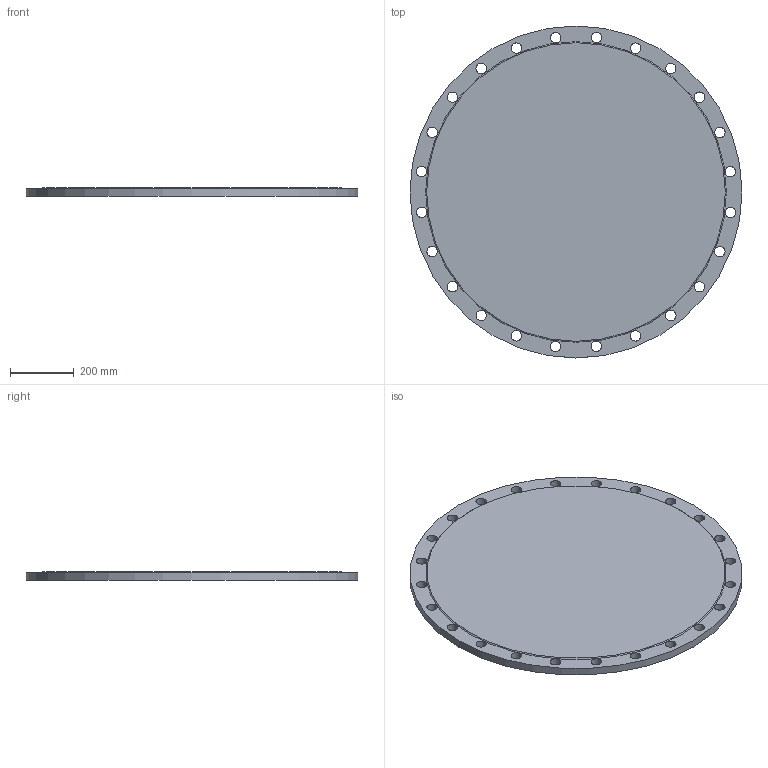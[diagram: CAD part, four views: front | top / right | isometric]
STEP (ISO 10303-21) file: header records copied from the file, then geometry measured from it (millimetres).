
FILE_DESCRIPTION(/* description */ (''),/* implementation_level */ '2;1');
FILE_NAME(/* name */ 'C:\Users\D\Documents\Inventor\HP\JIS\フランジ\JIS 5k bl rf\jis5k-bl-rf-850.stp',/* time_stamp */ '2024-09-12T16:51:48+09:00',/* author */ ('D'),/* organization */ (''),/* preprocessor_version */ 'ST-DEVELOPER v18',/* originating_system */ 'Autodesk Inventor 2020',/* authorisation */ '');
FILE_SCHEMA (('AUTOMOTIVE_DESIGN { 1 0 10303 214 3 1 1 }'));
Length unit declared in the file: millimetre
Products named in the file (1): jis5k-sop-rf-10
Bounding box: 1045 x 1045 x 28 mm (x, y, z)
Volume: 23016326.8 mm3; surface area: 1823633 mm2
Topology: 1 solids, 1 shells, 29 faces, 82 edges, 56 vertices
Faces by surface type: cylinder 25, plane 3, torus 1
Full cylindrical faces by diameter (mm): 33 x24, 1045 x1
Entity records: 1122 total; most frequent: DIRECTION 199, CARTESIAN_POINT 168, ORIENTED_EDGE 164, AXIS2_PLACEMENT_3D 87, EDGE_CURVE 82, EDGE_LOOP 78, CIRCLE 57, VERTEX_POINT 56
